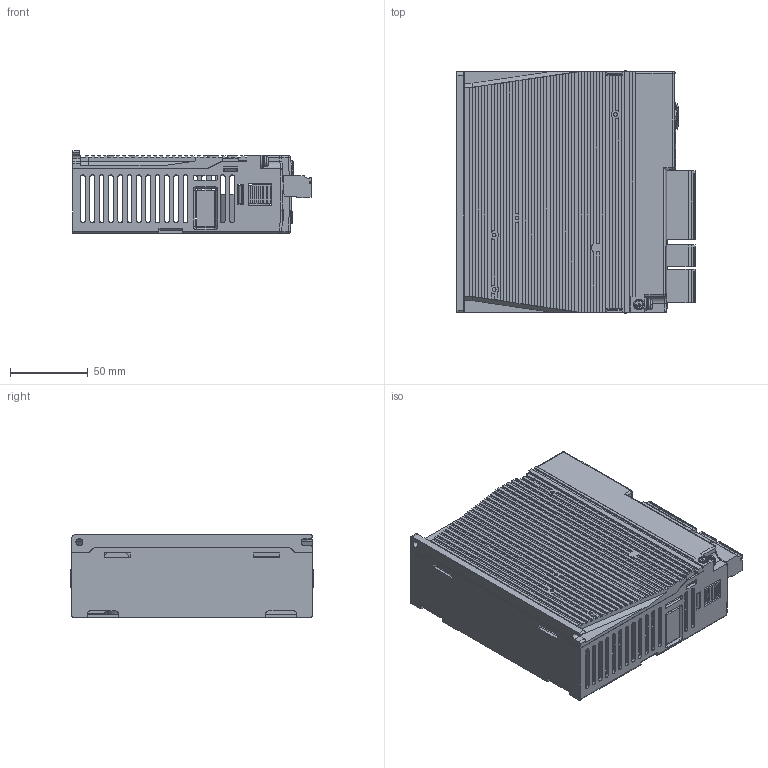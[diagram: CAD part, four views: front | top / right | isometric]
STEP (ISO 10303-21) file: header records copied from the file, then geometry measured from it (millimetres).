
FILE_DESCRIPTION (( 'STEP AP214' ), '1' );
FILE_NAME ('Rockwell Automation-2071-AP1.STEP', '2012-07-27T12:10:19', ( 'sysAdmin' ), ( 'SolidWorks' ), 'SwSTEP 2.0', 'SolidWorks 2012', '' );
FILE_SCHEMA (( 'AUTOMOTIVE_DESIGN' ));
Length unit declared in the file: millimetre
Products named in the file (1): Rockwell Automation-2071-AP1
Bounding box: 153.41 x 156 x 53 mm (x, y, z)
Volume: 166298.7 mm3; surface area: 172677.1 mm2
Topology: 9 solids, 10 shells, 4729 faces, 12753 edges, 8744 vertices
Faces by surface type: plane 3050, cylinder 1439, bspline 136, cone 60, sphere 29, torus 15
Entity records: 187986 total; most frequent: CARTESIAN_POINT 41358, ORIENTED_EDGE 25402, DIRECTION 23982, EDGE_CURVE 12701, LINE 8788, VECTOR 8788, VERTEX_POINT 8720, AXIS2_PLACEMENT_3D 7597
